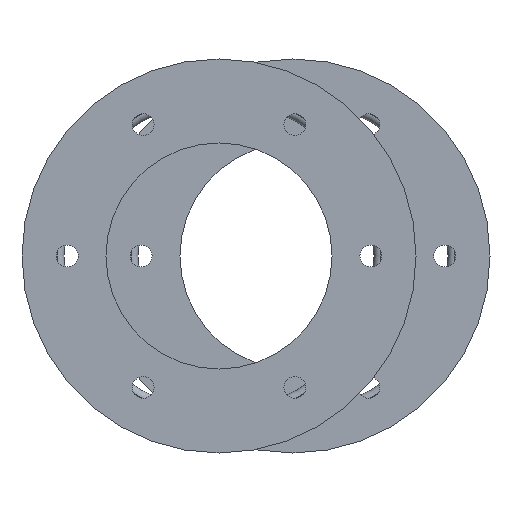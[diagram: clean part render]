
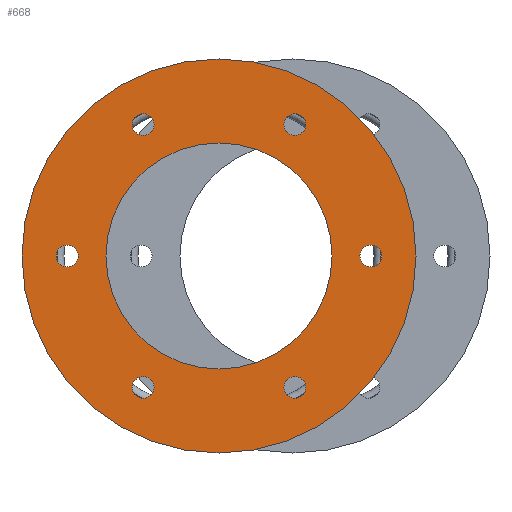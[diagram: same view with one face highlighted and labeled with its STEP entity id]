
A CAD part, left-side view. The second image highlights one B-rep face of the part: STEP entity #668.
In plain terms, the highlighted planar face has unit normal (-1, 0, 0).
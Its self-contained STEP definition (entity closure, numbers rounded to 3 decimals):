
#668 = ADVANCED_FACE( 'NONE', ( #997, #998, #999, #1000, #1001, #1002, #1003, #1004 ), #1005, .F. );
#997 = FACE_OUTER_BOUND( '', #1143, .T. );
#998 = FACE_BOUND( '', #1144, .T. );
#999 = FACE_BOUND( '', #1145, .T. );
#1000 = FACE_BOUND( '', #1146, .T. );
#1001 = FACE_BOUND( '', #1147, .T. );
#1002 = FACE_BOUND( '', #1148, .T. );
#1003 = FACE_BOUND( '', #1149, .T. );
#1004 = FACE_BOUND( '', #1150, .T. );
#1005 = PLANE( '', #1151 );
#1143 = EDGE_LOOP( '', ( #1347 ) );
#1144 = EDGE_LOOP( '', ( #1348 ) );
#1145 = EDGE_LOOP( '', ( #1349 ) );
#1146 = EDGE_LOOP( '', ( #1350 ) );
#1147 = EDGE_LOOP( '', ( #1351 ) );
#1148 = EDGE_LOOP( '', ( #1352 ) );
#1149 = EDGE_LOOP( '', ( #1353 ) );
#1150 = EDGE_LOOP( '', ( #1354 ) );
#1151 = AXIS2_PLACEMENT_3D( '', #1355, #1356, #1357 );
#1347 = ORIENTED_EDGE( '', *, *, #1556, .T. );
#1348 = ORIENTED_EDGE( '', *, *, #1557, .F. );
#1349 = ORIENTED_EDGE( '', *, *, #1554, .F. );
#1350 = ORIENTED_EDGE( '', *, *, #1558, .F. );
#1351 = ORIENTED_EDGE( '', *, *, #1550, .F. );
#1352 = ORIENTED_EDGE( '', *, *, #1552, .F. );
#1353 = ORIENTED_EDGE( '', *, *, #1559, .F. );
#1354 = ORIENTED_EDGE( '', *, *, #1560, .F. );
#1355 = CARTESIAN_POINT( '', ( 0., 35., 0. ) );
#1356 = DIRECTION( '', ( 1., 0., 0. ) );
#1357 = DIRECTION( '', ( 0., 1., 0. ) );
#1550 = EDGE_CURVE( 'NONE', #1722, #1722, #1723, .T. );
#1552 = EDGE_CURVE( 'NONE', #1726, #1726, #1727, .T. );
#1554 = EDGE_CURVE( 'NONE', #1730, #1730, #1731, .T. );
#1556 = EDGE_CURVE( 'NONE', #1734, #1734, #1735, .T. );
#1557 = EDGE_CURVE( 'NONE', #1736, #1736, #1737, .T. );
#1558 = EDGE_CURVE( 'NONE', #1738, #1738, #1739, .T. );
#1559 = EDGE_CURVE( 'NONE', #1740, #1740, #1741, .T. );
#1560 = EDGE_CURVE( 'NONE', #1742, #1742, #1743, .T. );
#1722 = VERTEX_POINT( '', #1754 );
#1723 = CIRCLE( '', #1755, 3.4 );
#1726 = VERTEX_POINT( '', #1758 );
#1727 = CIRCLE( '', #1759, 35. );
#1730 = VERTEX_POINT( '', #1762 );
#1731 = CIRCLE( '', #1763, 3.4 );
#1734 = VERTEX_POINT( '', #1766 );
#1735 = CIRCLE( '', #1767, 61. );
#1736 = VERTEX_POINT( '', #1768 );
#1737 = CIRCLE( '', #1769, 3.4 );
#1738 = VERTEX_POINT( '', #1770 );
#1739 = CIRCLE( '', #1771, 3.4 );
#1740 = VERTEX_POINT( '', #1772 );
#1741 = CIRCLE( '', #1773, 3.4 );
#1742 = VERTEX_POINT( '', #1774 );
#1743 = CIRCLE( '', #1775, 3.4 );
#1754 = CARTESIAN_POINT( '', ( 0., 47., 3.4 ) );
#1755 = AXIS2_PLACEMENT_3D( '', #1786, #1787, #1788 );
#1758 = CARTESIAN_POINT( '', ( 0., 0., 35. ) );
#1759 = AXIS2_PLACEMENT_3D( '', #1792, #1793, #1794 );
#1762 = CARTESIAN_POINT( '', ( 0., -23.5, -37.303 ) );
#1763 = AXIS2_PLACEMENT_3D( '', #1798, #1799, #1800 );
#1766 = CARTESIAN_POINT( '', ( 0., 0., 61. ) );
#1767 = AXIS2_PLACEMENT_3D( '', #1804, #1805, #1806 );
#1768 = CARTESIAN_POINT( '', ( 0., -23.5, 44.103 ) );
#1769 = AXIS2_PLACEMENT_3D( '', #1807, #1808, #1809 );
#1770 = CARTESIAN_POINT( '', ( 0., 23.5, -37.303 ) );
#1771 = AXIS2_PLACEMENT_3D( '', #1810, #1811, #1812 );
#1772 = CARTESIAN_POINT( '', ( 0., -47., 3.4 ) );
#1773 = AXIS2_PLACEMENT_3D( '', #1813, #1814, #1815 );
#1774 = CARTESIAN_POINT( '', ( 0., 23.5, 44.103 ) );
#1775 = AXIS2_PLACEMENT_3D( '', #1816, #1817, #1818 );
#1786 = CARTESIAN_POINT( '', ( 0., 47., 0. ) );
#1787 = DIRECTION( '', ( -1., 0., 0. ) );
#1788 = DIRECTION( '', ( 0., 0., 1. ) );
#1792 = CARTESIAN_POINT( '', ( 0., 0., 0. ) );
#1793 = DIRECTION( '', ( -1., 0., 0. ) );
#1794 = DIRECTION( '', ( 0., 0., 1. ) );
#1798 = CARTESIAN_POINT( '', ( 0., -23.5, -40.703 ) );
#1799 = DIRECTION( '', ( -1., 0., 0. ) );
#1800 = DIRECTION( '', ( 0., 0., 1. ) );
#1804 = CARTESIAN_POINT( '', ( 0., 0., 0. ) );
#1805 = DIRECTION( '', ( -1., 0., 0. ) );
#1806 = DIRECTION( '', ( 0., 0., 1. ) );
#1807 = CARTESIAN_POINT( '', ( 0., -23.5, 40.703 ) );
#1808 = DIRECTION( '', ( -1., 0., 0. ) );
#1809 = DIRECTION( '', ( 0., 0., 1. ) );
#1810 = CARTESIAN_POINT( '', ( 0., 23.5, -40.703 ) );
#1811 = DIRECTION( '', ( -1., 0., 0. ) );
#1812 = DIRECTION( '', ( 0., 0., 1. ) );
#1813 = CARTESIAN_POINT( '', ( 0., -47., 0. ) );
#1814 = DIRECTION( '', ( -1., 0., 0. ) );
#1815 = DIRECTION( '', ( 0., 0., 1. ) );
#1816 = CARTESIAN_POINT( '', ( 0., 23.5, 40.703 ) );
#1817 = DIRECTION( '', ( -1., 0., 0. ) );
#1818 = DIRECTION( '', ( 0., 0., 1. ) );
